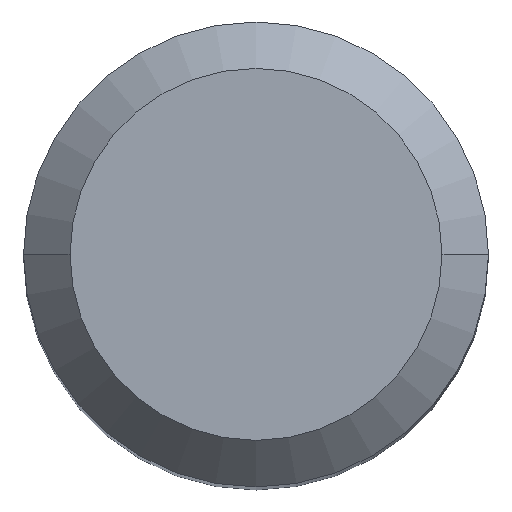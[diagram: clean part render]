
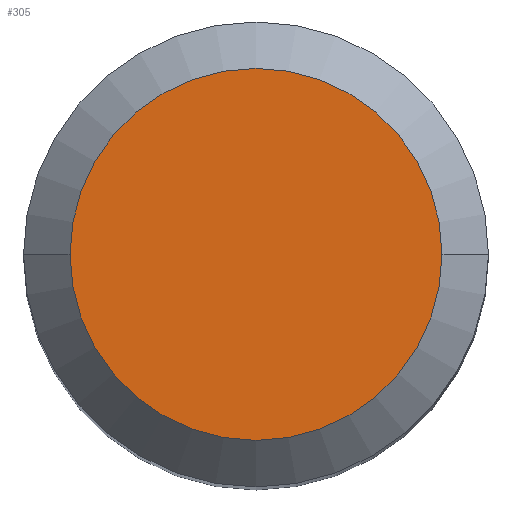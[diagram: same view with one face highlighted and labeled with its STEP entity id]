
A CAD part, top view. The second image highlights one B-rep face of the part: STEP entity #305.
In plain terms, the highlighted planar face has unit normal (0, 0, 1).
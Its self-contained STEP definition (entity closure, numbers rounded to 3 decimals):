
#17 = PLANE ( 'NONE',  #338 ) ;
#82 = CARTESIAN_POINT ( 'NONE',  ( 5.6, 0., 0. ) ) ;
#88 = EDGE_LOOP ( 'NONE', ( #236, #357 ) ) ;
#89 = DIRECTION ( 'NONE',  ( -1., 0., 0. ) ) ;
#92 = EDGE_CURVE ( 'NONE', #397, #246, #250, .T. ) ;
#95 = EDGE_CURVE ( 'NONE', #246, #397, #261, .T. ) ;
#99 = CARTESIAN_POINT ( 'NONE',  ( -5.6, 0., 0. ) ) ;
#133 = DIRECTION ( 'NONE',  ( 0., 0., -1. ) ) ;
#164 = DIRECTION ( 'NONE',  ( 0., 0., 1. ) ) ;
#219 = CARTESIAN_POINT ( 'NONE',  ( 0., 0., 0. ) ) ;
#236 = ORIENTED_EDGE ( 'NONE', *, *, #95, .F. ) ;
#246 = VERTEX_POINT ( 'NONE', #99 ) ;
#250 = CIRCLE ( 'NONE', #385, 5.6 ) ;
#251 = FACE_OUTER_BOUND ( 'NONE', #88, .T. ) ;
#261 = CIRCLE ( 'NONE', #326, 5.6 ) ;
#305 = ADVANCED_FACE ( 'NONE', ( #251 ), #17, .T. ) ;
#326 = AXIS2_PLACEMENT_3D ( 'NONE', #421, #427, #327 ) ;
#327 = DIRECTION ( 'NONE',  ( -1., 0., 0. ) ) ;
#338 = AXIS2_PLACEMENT_3D ( 'NONE', #462, #164, #464 ) ;
#357 = ORIENTED_EDGE ( 'NONE', *, *, #92, .F. ) ;
#385 = AXIS2_PLACEMENT_3D ( 'NONE', #219, #133, #89 ) ;
#397 = VERTEX_POINT ( 'NONE', #82 ) ;
#421 = CARTESIAN_POINT ( 'NONE',  ( 0., 0., 0. ) ) ;
#427 = DIRECTION ( 'NONE',  ( 0., 0., -1. ) ) ;
#462 = CARTESIAN_POINT ( 'NONE',  ( 0., 5.6, 0. ) ) ;
#464 = DIRECTION ( 'NONE',  ( 1., 0., 0. ) ) ;
